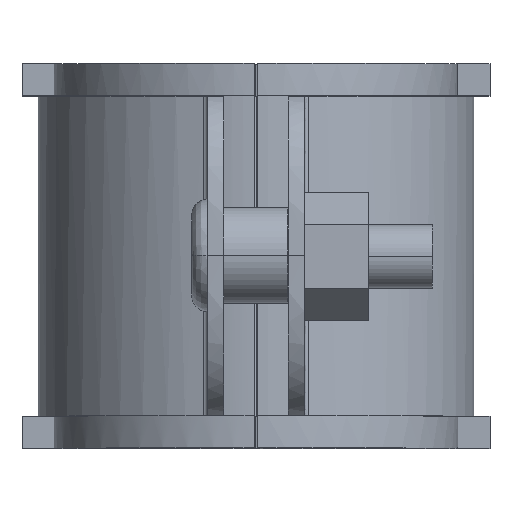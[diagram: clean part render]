
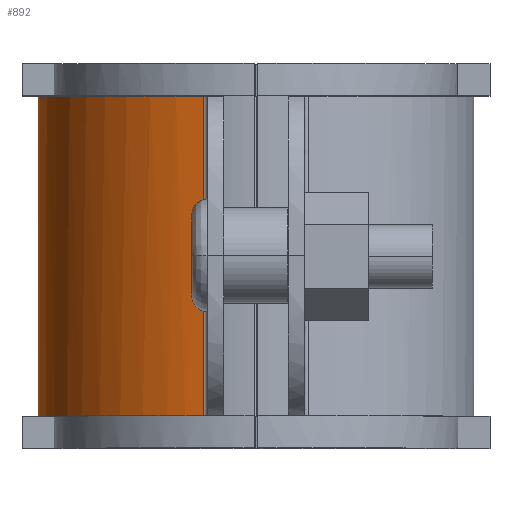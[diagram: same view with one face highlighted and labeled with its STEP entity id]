
A CAD part, top view. The second image highlights one B-rep face of the part: STEP entity #892.
In plain terms, the highlighted free-form (B-spline) face has degree [3, 1] with [4, 2] control points.
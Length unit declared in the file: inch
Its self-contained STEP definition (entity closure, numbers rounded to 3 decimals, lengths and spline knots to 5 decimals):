
#502=EDGE_CURVE('',#1234,#1235,#1236,.T.);
#752=EDGE_CURVE('',#1235,#1590,#1591,.T.);
#772=EDGE_CURVE('',#1617,#1234,#1618,.T.);
#892=ADVANCED_FACE('',(#1773),#1774,.T.);
#950=EDGE_CURVE('',#1617,#1590,#1845,.T.);
#1234=VERTEX_POINT('',#2269);
#1235=VERTEX_POINT('',#2270);
#1236=LINE('',#2271,#2272);
#1590=VERTEX_POINT('',#3169);
#1591=B_SPLINE_CURVE_WITH_KNOTS('',3,(#3170,#3171,#3172,#3173),.UNSPECIFIED.,.F.,.F.,(4,4),(0.0,1.0),.UNSPECIFIED.);
#1617=VERTEX_POINT('',#3210);
#1618=B_SPLINE_CURVE_WITH_KNOTS('',3,(#3211,#3212,#3213,#3214),.UNSPECIFIED.,.F.,.F.,(4,4),(-1.0,-0.0),.UNSPECIFIED.);
#1773=FACE_OUTER_BOUND('',#3497,.T.);
#1774=B_SPLINE_SURFACE_WITH_KNOTS('',3,1,((#3498,#3499),(#3500,#3501),(#3502,#3503),(#3504,#3505)),.UNSPECIFIED.,.F.,.F.,.F.,(4,4),(2,2),(-1.0,-0.0),(0.0,1.25),.UNSPECIFIED.);
#1845=LINE('',#3635,#3636);
#2269=CARTESIAN_POINT('',(0.0,1.24627,1.51978));
#2270=CARTESIAN_POINT('',(0.0,0.0,1.51978));
#2271=CARTESIAN_POINT('',(0.0,1.25,1.51978));
#2272=VECTOR('',#4017,1.0);
#3169=CARTESIAN_POINT('',(0.64533,0.0,2.34446));
#3170=CARTESIAN_POINT('',(0.0,0.0,1.51978));
#3171=CARTESIAN_POINT('',(0.0,0.0,1.91852));
#3172=CARTESIAN_POINT('',(0.27486,0.0,2.25297));
#3173=CARTESIAN_POINT('',(0.64533,0.0,2.34446));
#3210=CARTESIAN_POINT('',(0.64533,1.24627,2.34446));
#3211=CARTESIAN_POINT('',(0.64533,1.24627,2.34446));
#3212=CARTESIAN_POINT('',(0.27486,1.24627,2.25297));
#3213=CARTESIAN_POINT('',(0.0,1.24627,1.91852));
#3214=CARTESIAN_POINT('',(0.0,1.24627,1.51978));
#3497=EDGE_LOOP('',(#4887,#4888,#4889,#4890));
#3498=CARTESIAN_POINT('',(0.64533,1.25,2.34446));
#3499=CARTESIAN_POINT('',(0.64533,0.0,2.34446));
#3500=CARTESIAN_POINT('',(0.27486,1.25,2.25297));
#3501=CARTESIAN_POINT('',(0.27486,0.0,2.25297));
#3502=CARTESIAN_POINT('',(0.0,1.25,1.91852));
#3503=CARTESIAN_POINT('',(0.0,0.0,1.91852));
#3504=CARTESIAN_POINT('',(0.0,1.25,1.51978));
#3505=CARTESIAN_POINT('',(0.0,0.0,1.51978));
#3635=CARTESIAN_POINT('',(0.64533,1.25,2.34446));
#3636=VECTOR('',#5021,1.0);
#4017=DIRECTION('',(0.0,-1.0,0.0));
#4887=ORIENTED_EDGE('',*,*,#772,.T.);
#4888=ORIENTED_EDGE('',*,*,#502,.T.);
#4889=ORIENTED_EDGE('',*,*,#752,.T.);
#4890=ORIENTED_EDGE('',*,*,#950,.F.);
#5021=DIRECTION('',(0.0,-1.0,0.0));
